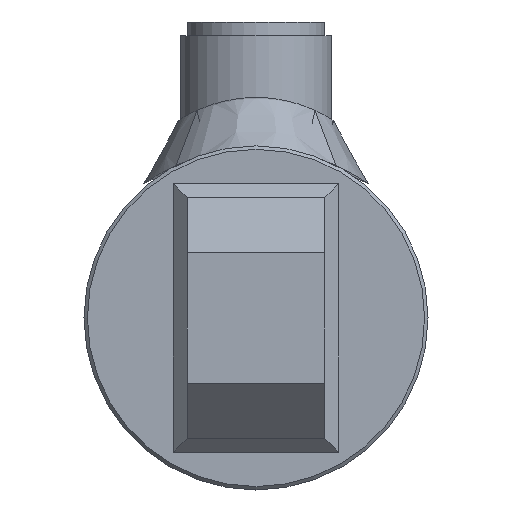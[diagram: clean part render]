
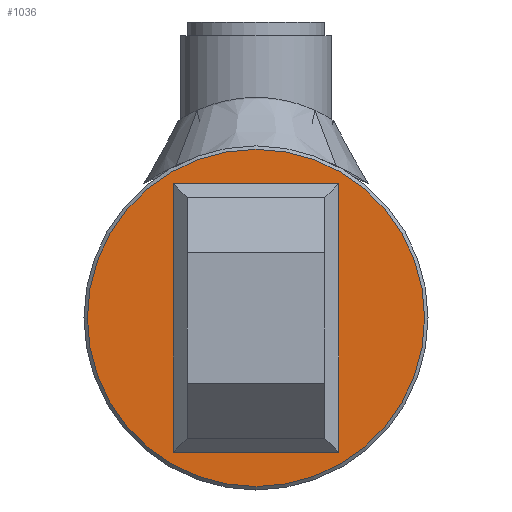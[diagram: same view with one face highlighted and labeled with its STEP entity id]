
A CAD part, left-side view. The second image highlights one B-rep face of the part: STEP entity #1036.
In plain terms, the highlighted planar face has unit normal (-1, 0, 0).
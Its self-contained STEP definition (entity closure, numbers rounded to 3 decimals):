
#1036 = ADVANCED_FACE( '', ( #1938 ), #1939, .T. );
#1938 = FACE_OUTER_BOUND( '', #4882, .T. );
#1939 = PLANE( '', #4883 );
#4882 = EDGE_LOOP( '', ( #6342 ) );
#4883 = AXIS2_PLACEMENT_3D( '', #6343, #6344, #6345 );
#6342 = ORIENTED_EDGE( '', *, *, #6864, .T. );
#6343 = CARTESIAN_POINT( '', ( -10., 0., 0. ) );
#6344 = DIRECTION( '', ( -1., 0., 0. ) );
#6345 = DIRECTION( '', ( 0., -1., 0. ) );
#6864 = EDGE_CURVE( '', #7721, #7721, #7722, .T. );
#7721 = VERTEX_POINT( '', #8866 );
#7722 = CIRCLE( '', #8867, 24.5 );
#8866 = CARTESIAN_POINT( '', ( -10., -24.5, 0. ) );
#8867 = AXIS2_PLACEMENT_3D( '', #10234, #10235, #10236 );
#10234 = CARTESIAN_POINT( '', ( -10., 0., 0. ) );
#10235 = DIRECTION( '', ( -1., 0., 0. ) );
#10236 = DIRECTION( '', ( 0., -1., 0. ) );
